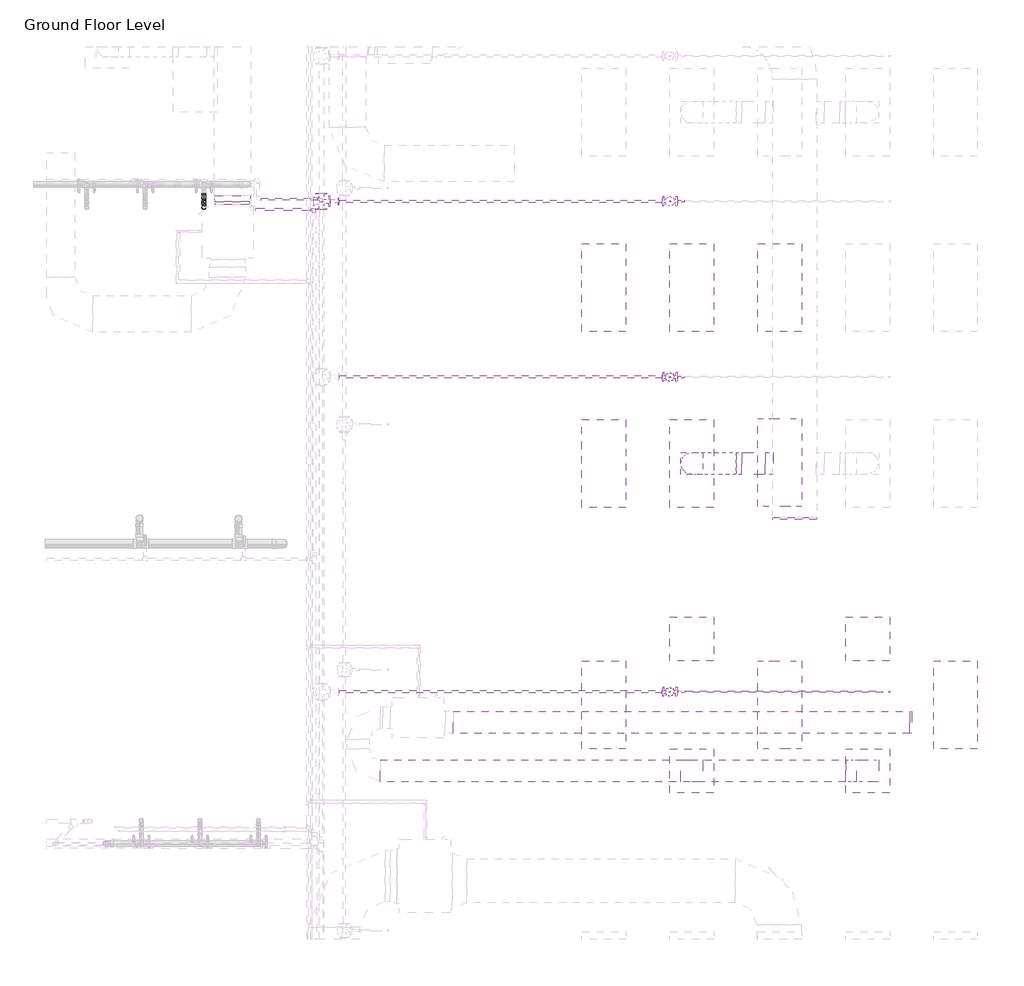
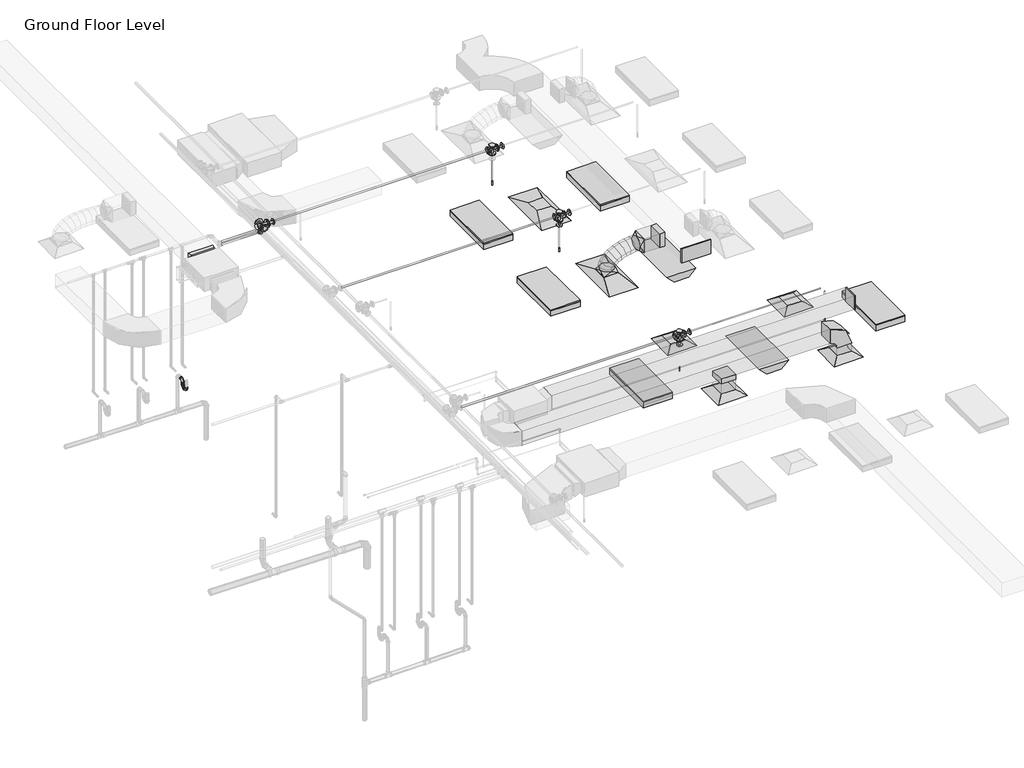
# One storey, part 22 of 74: 15 pipe fittings, 12 pipe segments, 8 duct fittings, 7 duct segments, 7 light fixtures, 6 air terminals, 4 fire suppression terminals.
"""IFC4 building model written with IfcOpenShell, lengths in millimetres."""

from ifc_helpers import new_model, si_unit, point, frame, frame_2d, origin, place, context, project, spatial, polyline, circle_curve, ellipse_curve, trimmed, segment, composite_curve, outline, extrude, transform, mapped, element, save
from ifc_brep_helpers import plane_surface, cylinder_surface, advanced_brep
from components import m_return_diffuser_1200x600_1200_x_600_face_300_x_300_d1983ef6, m_return_diffuser_600_x_600_face_300_x_300_connection_ff221211, m_rectangular_elbow_radius_1_w_618da153, m_rectangular_endcap_standard_0f0ff112, m_rectangular_endcap_standard_c319d4e7, m_rectangular_takeoff_standard_2be5eba1, m_rectangular_transition_angle_45_degree_c3bd3b2c, m_rectangular_to_round_transition_angle_45_degree_641efff0, m_sprinkler_dry_pendent_hosted_15_mm_dry_pendent_9bda8e11, m_emergency_recessed_lighting_fixture_600x1200_277_5b10b25d, m_troffer_light_parabolic_rectangular1_0600x1200mm_4_lamp_86473d4a, m_bend_pvc_sch_40_dwv_standard_1e7bdcc1, m_bend_pvc_sch_40_dwv_standard_776e50c4, m_reducer_flanged_cs_class_150_standard_ccf252ad, m_reducer_flanged_cs_class_150_standard_a7631c35, m_tee_round_base_flanged_cs_class_150_standard_dd767e04, m_tee_round_base_flanged_cs_class_150_standard_7e5987a1, standard_517a5a8d

model = new_model("IFC4")

# Units and contexts
model_context = context("Model", 3, world=origin())
ifc_project = project(units=[si_unit("LENGTHUNIT", "METRE", prefix="MILLI")], contexts=[model_context])

# Site, building, storey
site = spatial("IfcSite", under=ifc_project)
building = spatial("IfcBuilding", under=site)
storey = spatial("IfcBuildingStorey", under=building, Name="Ground Floor Level", Elevation=900.0)

# Air terminals
placement = place(None, origin())
m_return_diffuser_1200x600_1200_x_600_face_300_x_300_shape = m_return_diffuser_1200x600_1200_x_600_face_300_x_300_d1983ef6(model_context)
element("IfcAirTerminal", 1, ObjectType="M_Return Diffuser 1200x600 : 1200 x 600 Face 300 x 300 Connection", at=placement, inside=storey, context=model_context, shape_type="MappedRepresentation", body=[
    mapped(m_return_diffuser_1200x600_1200_x_600_face_300_x_300_shape, transform((10743.0482736, -25264.7846466, 3650.0), x_axis=(0.0, 1.0, 0.0), y_axis=(-1.0, 0.0, 0.0), z_axis=(0.0, 0.0, 1.0))),
])
m_return_diffuser_600_x_600_face_300_x_300_connection_shape = m_return_diffuser_600_x_600_face_300_x_300_connection_ff221211(model_context)
element("IfcAirTerminal", 2, ObjectType="M_Return Diffuser : 600 x 600 Face 300 x 300 Connection", at=placement, inside=storey, context=model_context, shape_type="MappedRepresentation", body=[
    mapped(m_return_diffuser_600_x_600_face_300_x_300_connection_shape, transform((10743.0482736, -31864.7846466, 3650.0), x_axis=(1.0, 0.0, 0.0), y_axis=(0.0, 1.0, 0.0), z_axis=(0.0, 0.0, 1.0))),
])
element("IfcAirTerminal", 3, ObjectType="M_Return Diffuser : 600 x 600 Face 300 x 300 Connection", at=placement, inside=storey, context=model_context, shape_type="MappedRepresentation", body=[
    mapped(m_return_diffuser_600_x_600_face_300_x_300_connection_shape, transform((13143.0482736, -31864.7846466, 3650.0), x_axis=(1.0, 0.0, 0.0), y_axis=(0.0, 1.0, 0.0), z_axis=(0.0, 0.0, 1.0))),
])
element("IfcAirTerminal", 4, ObjectType="M_Supply Diffuser 1200x600 : 1200 x 600 Face 300 x 300 Connection", at=placement, inside=storey, context=model_context, shape_type="MappedRepresentation", body=[
    mapped(m_return_diffuser_1200x600_1200_x_600_face_300_x_300_shape, transform((10743.0482736, -27664.7846466, 3650.0), x_axis=(0.0, 1.0, 0.0), y_axis=(-1.0, 0.0, 0.0), z_axis=(0.0, 0.0, 1.0))),
])
element("IfcAirTerminal", 5, ObjectType="M_Supply Diffuser : 600 x 600 Face 300 x 300 Connection", at=placement, inside=storey, context=model_context, shape_type="MappedRepresentation", body=[
    mapped(m_return_diffuser_600_x_600_face_300_x_300_connection_shape, transform((10743.0482736, -30064.7846466, 3650.0), x_axis=(1.0, 0.0, 0.0), y_axis=(0.0, 1.0, 0.0), z_axis=(0.0, 0.0, 1.0))),
])
element("IfcAirTerminal", 6, ObjectType="M_Supply Diffuser : 600 x 600 Face 300 x 300 Connection", at=placement, inside=storey, context=model_context, shape_type="MappedRepresentation", body=[
    mapped(m_return_diffuser_600_x_600_face_300_x_300_connection_shape, transform((13143.0482736, -30064.7846466, 3650.0), x_axis=(1.0, 0.0, 0.0), y_axis=(0.0, 1.0, 0.0), z_axis=(0.0, 0.0, 1.0))),
])

# Duct fittings
m_rectangular_elbow_radius_1_w_shape = m_rectangular_elbow_radius_1_w_618da153(model_context)
element("IfcDuctFitting", 7, ObjectType="M_Rectangular Elbow - Radius : 1 W", at=placement, inside=storey, context=model_context, shape_type="MappedRepresentation", body=[
    mapped(m_rectangular_elbow_radius_1_w_shape, transform((13143.0482736, -31864.7846466, 4221.2), x_axis=(0.0, 0.0, 1.0), y_axis=(-1.0, 0.0, 0.0), z_axis=(0.0, -1.0, 0.0))),
])
m_rectangular_endcap_standard_shape = m_rectangular_endcap_standard_0f0ff112(model_context)
element("IfcDuctFitting", 8, ObjectType="M_Rectangular Endcap : Standard", at=placement, inside=storey, context=model_context, shape_type="MappedRepresentation", body=[
    mapped(m_rectangular_endcap_standard_shape, transform((12147.7826463, -28403.2846466, 4150.0002153), x_axis=(0.0, -1.0, 0.0), y_axis=(1.0, 0.0, 0.0), z_axis=(0.0, 0.0, 1.0))),
])
m_rectangular_endcap_standard_2_shape = m_rectangular_endcap_standard_c319d4e7(model_context)
element("IfcDuctFitting", 9, ObjectType="M_Rectangular Endcap : Standard", at=placement, inside=storey, context=model_context, shape_type="MappedRepresentation", body=[
    mapped(m_rectangular_endcap_standard_2_shape, transform((13719.2644074, -31200.1877703, 4245.9), x_axis=(0.9999999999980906, 0.0, -1.954187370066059e-06), y_axis=(0.0, 1.0000000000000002, 0.0), z_axis=(1.954187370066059e-06, 0.0, 0.9999999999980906))),
])
m_rectangular_takeoff_standard_shape = m_rectangular_takeoff_standard_2be5eba1(model_context)
element("IfcDuctFitting", 10, ObjectType="M_Rectangular Takeoff : Standard", at=placement, inside=storey, context=model_context, shape_type="MappedRepresentation", body=[
    mapped(m_rectangular_takeoff_standard_shape, transform((11847.7826463, -27664.7846466, 4150.0), x_axis=(-1.0, 0.0, 0.0), y_axis=(0.0, 1.0, 0.0), z_axis=(0.0, 0.0, -1.0))),
])
element("IfcDuctFitting", 11, ObjectType="M_Rectangular Takeoff : Standard", at=placement, inside=storey, context=model_context, shape_type="MappedRepresentation", body=[
    mapped(m_rectangular_takeoff_standard_shape, transform((10743.0482736, -31864.7846466, 4071.2), x_axis=(0.0, 0.0, -1.0), y_axis=(-1.0, 0.0, 0.0), z_axis=(0.0, 1.0, 0.0))),
])
m_rectangular_transition_angle_45_degree_shape = m_rectangular_transition_angle_45_degree_c3bd3b2c(model_context)
element("IfcDuctFitting", 12, ObjectType="M_Rectangular Transition - Angle : 45 Degree", at=placement, inside=storey, context=model_context, shape_type="MappedRepresentation", body=[
    mapped(m_rectangular_transition_angle_45_degree_shape, transform((4469.1581832, -24003.4668801, 4057.1548873), x_axis=(0.0, -0.9999999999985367, 1.7107374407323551e-06), y_axis=(1.0, 0.0, 0.0), z_axis=(0.0, 1.7107374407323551e-06, 0.9999999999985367))),
])
m_rectangular_to_round_transition_angle_45_degree_shape = m_rectangular_to_round_transition_angle_45_degree_641efff0(model_context)
element("IfcDuctFitting", 13, ObjectType="M_Rectangular to Round Transition - Angle : 45 Degree", at=placement, inside=storey, context=model_context, shape_type="MappedRepresentation", body=[
    mapped(m_rectangular_to_round_transition_angle_45_degree_shape, transform((10743.0482736, -27664.7846466, 3751.6), x_axis=(0.0, 0.0, 1.0), y_axis=(-1.0, 0.0, 0.0), z_axis=(0.0, -1.0, 0.0))),
])
element("IfcDuctFitting", 14, ObjectType="M_Rectangular to Round Transition - Angle : 45 Degree", at=placement, inside=storey, context=model_context, shape_type="MappedRepresentation", body=[
    mapped(m_rectangular_to_round_transition_angle_45_degree_shape, transform((11424.4842049, -27664.7846466, 4150.0), x_axis=(-1.0, 0.0, 0.0), y_axis=(0.0, -1.0, 0.0), z_axis=(0.0, 0.0, 1.0))),
])

# Duct segments
element("IfcDuctSegment", 15, ObjectType="Flex - Round", at=placement, inside=storey, context=model_context, shape_type="AdvancedBrep", body=[
    advanced_brep(
    [(10893.0482736, -27664.7846466, 3826.6), (10743.0482736, -27814.7846466, 3826.6), (10593.0482736, -27664.7846466, 3826.6), (10743.0482736, -27514.7846466, 3826.6), (10893.0482736, -27664.7846466, 3832.4838104), (10743.0482736, -27814.7846466, 3857.3049615), (10593.0482736, -27664.7846466, 3882.1261126), (10743.0482736, -27514.7846466, 3857.3049615), (10895.1777586, -27664.7846466, 3838.7421096), (10759.7096782, -27814.7846466, 3906.2708192), (10624.2415979, -27664.7846466, 3973.7995287), (10759.7096782, -27514.7846466, 3906.2708192), (10917.1997864, -27664.7846466, 3871.1472855), (10805.5876959, -27814.7846466, 3973.7798261), (10693.9756053, -27664.7846466, 4076.4123668), (10805.5876959, -27514.7846466, 3973.7798261), (10957.142511, -27664.7846466, 3903.4915826), (10874.5230324, -27814.7846466, 4029.6013814), (10791.9035539, -27664.7846466, 4155.7111802), (10874.5230324, -27514.7846466, 4029.6013814), (11020.0646936, -27664.7846466, 3936.1928758), (10960.3563938, -27814.7846466, 4074.2098454), (10900.6480941, -27664.7846466, 4212.226815), (10960.3563938, -27514.7846466, 4074.2098454), (11098.9170855, -27664.7846466, 3963.8479616), (11056.9284859, -27814.7846466, 4108.0795788), (11014.9398863, -27664.7846466, 4252.311196), (11056.9284859, -27514.7846466, 4108.0795788), (11185.4890682, -27664.7846466, 3984.0509494), (11158.0800145, -27814.7846466, 4131.684942), (11130.6709609, -27664.7846466, 4279.3189347), (11158.0800145, -27514.7846466, 4131.684942), (11271.9732516, -27664.7846466, 3996.0504424), (11257.6516856, -27814.7846466, 4145.5002956), (11243.3301196, -27664.7846466, 4294.9501488), (11257.6516856, -27514.7846466, 4145.5002956), (11346.1345531, -27664.7846466, 4000.0), (11342.1431577, -27814.7846466, 4150.0), (11338.1517622, -27664.7846466, 4300.0), (11342.1431577, -27514.7846466, 4150.0), (11349.4842049, -27664.7846466, 4000.0), (11349.4842049, -27514.7846466, 4150.0), (11349.4842049, -27664.7846466, 4300.0), (11349.4842049, -27814.7846466, 4150.0)],
    [
        (0, 1, circle_curve(frame((10743.0482736, -27664.7846466, 3826.6), z_axis=(0.0, 0.0, -1.0), x_axis=(1.0, 0.0, 0.0)), 150.0)),
        (1, 2, circle_curve(frame((10743.0482736, -27664.7846466, 3826.6), z_axis=(0.0, 0.0, -1.0), x_axis=(1.0, 0.0, 0.0)), 150.0)),
        (2, 3, circle_curve(frame((10743.0482736, -27664.7846466, 3826.6), z_axis=(0.0, 0.0, -1.0), x_axis=(1.0, 0.0, 0.0)), 150.0)),
        (3, 0, circle_curve(frame((10743.0482736, -27664.7846466, 3826.6), z_axis=(0.0, 0.0, -1.0), x_axis=(1.0, 0.0, 0.0)), 150.0)),
        (0, 4),
        (4, 5, ellipse_curve(frame((10743.0482736, -27664.7846466, 3857.3049615), z_axis=(-0.1632543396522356, 0.0, -0.9865840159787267), x_axis=(0.9865840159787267, 0.0, -0.16325433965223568)), 152.039763, 150.0)),
        (5, 1),
        (5, 6, ellipse_curve(frame((10743.0482736, -27664.7846466, 3857.3049615), z_axis=(-0.1632543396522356, 0.0, -0.9865840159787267), x_axis=(0.9865840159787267, 0.0, -0.16325433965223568)), 152.039763, 150.0)),
        (6, 2),
        (6, 7, ellipse_curve(frame((10743.0482736, -27664.7846466, 3857.3049615), z_axis=(-0.1632543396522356, 0.0, -0.9865840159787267), x_axis=(0.9865840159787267, 0.0, -0.16325433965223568)), 152.039763, 150.0)),
        (7, 3),
        (7, 4, ellipse_curve(frame((10743.0482736, -27664.7846466, 3857.3049615), z_axis=(-0.1632543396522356, 0.0, -0.9865840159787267), x_axis=(0.9865840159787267, 0.0, -0.16325433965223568)), 152.039763, 150.0)),
        (4, 8),
        (8, 9, ellipse_curve(frame((10759.7096782, -27664.7846466, 3906.2708192), z_axis=(-0.4461280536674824, 0.0, -0.8949691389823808), x_axis=(0.8949691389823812, 0.0, -0.44612805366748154)), 151.366203, 150.0)),
        (9, 5),
        (9, 10, ellipse_curve(frame((10759.7096782, -27664.7846466, 3906.2708192), z_axis=(-0.4461280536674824, 0.0, -0.8949691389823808), x_axis=(0.8949691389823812, 0.0, -0.44612805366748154)), 151.366203, 150.0)),
        (10, 6),
        (10, 11, ellipse_curve(frame((10759.7096782, -27664.7846466, 3906.2708192), z_axis=(-0.4461280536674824, 0.0, -0.8949691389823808), x_axis=(0.8949691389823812, 0.0, -0.44612805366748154)), 151.366203, 150.0)),
        (11, 7),
        (11, 8, ellipse_curve(frame((10759.7096782, -27664.7846466, 3906.2708192), z_axis=(-0.4461280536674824, 0.0, -0.8949691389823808), x_axis=(0.8949691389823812, 0.0, -0.44612805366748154)), 151.366203, 150.0)),
        (8, 12),
        (12, 13, ellipse_curve(frame((10805.5876959, -27664.7846466, 3973.7798261), z_axis=(-0.6768758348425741, 0.0, -0.7360972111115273), x_axis=(0.7360972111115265, 0.0, -0.6768758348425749)), 151.6268352, 150.0)),
        (13, 9),
        (13, 14, ellipse_curve(frame((10805.5876959, -27664.7846466, 3973.7798261), z_axis=(-0.6768758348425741, 0.0, -0.7360972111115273), x_axis=(0.7360972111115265, 0.0, -0.6768758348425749)), 151.6268352, 150.0)),
        (14, 10),
        (14, 15, ellipse_curve(frame((10805.5876959, -27664.7846466, 3973.7798261), z_axis=(-0.6768758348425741, 0.0, -0.7360972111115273), x_axis=(0.7360972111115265, 0.0, -0.6768758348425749)), 151.6268352, 150.0)),
        (15, 11),
        (15, 12, ellipse_curve(frame((10805.5876959, -27664.7846466, 3973.7798261), z_axis=(-0.6768758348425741, 0.0, -0.7360972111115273), x_axis=(0.7360972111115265, 0.0, -0.6768758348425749)), 151.6268352, 150.0)),
        (12, 16),
        (16, 17, ellipse_curve(frame((10874.5230324, -27664.7846466, 4029.6013814), z_axis=(-0.8364738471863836, 0.0, -0.5480068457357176), x_axis=(0.5480068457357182, 0.0, -0.8364738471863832)), 150.7635884, 150.0)),
        (17, 13),
        (17, 18, ellipse_curve(frame((10874.5230324, -27664.7846466, 4029.6013814), z_axis=(-0.8364738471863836, 0.0, -0.5480068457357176), x_axis=(0.5480068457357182, 0.0, -0.8364738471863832)), 150.7635884, 150.0)),
        (18, 14),
        (18, 19, ellipse_curve(frame((10874.5230324, -27664.7846466, 4029.6013814), z_axis=(-0.8364738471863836, 0.0, -0.5480068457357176), x_axis=(0.5480068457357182, 0.0, -0.8364738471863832)), 150.7635884, 150.0)),
        (19, 15),
        (19, 16, ellipse_curve(frame((10874.5230324, -27664.7846466, 4029.6013814), z_axis=(-0.8364738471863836, 0.0, -0.5480068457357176), x_axis=(0.5480068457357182, 0.0, -0.8364738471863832)), 150.7635884, 150.0)),
        (16, 20),
        (20, 21, ellipse_curve(frame((10960.3563938, -27664.7846466, 4074.2098454), z_axis=(-0.9177957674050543, 0.0, -0.3970528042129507), x_axis=(0.3970528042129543, 0.0, -0.9177957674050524)), 150.3787384, 150.0)),
        (21, 17),
        (21, 22, ellipse_curve(frame((10960.3563938, -27664.7846466, 4074.2098454), z_axis=(-0.9177957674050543, 0.0, -0.3970528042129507), x_axis=(0.3970528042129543, 0.0, -0.9177957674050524)), 150.3787384, 150.0)),
        (22, 18),
        (22, 23, ellipse_curve(frame((10960.3563938, -27664.7846466, 4074.2098454), z_axis=(-0.9177957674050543, 0.0, -0.3970528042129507), x_axis=(0.3970528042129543, 0.0, -0.9177957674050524)), 150.3787384, 150.0)),
        (23, 19),
        (23, 20, ellipse_curve(frame((10960.3563938, -27664.7846466, 4074.2098454), z_axis=(-0.9177957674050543, 0.0, -0.3970528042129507), x_axis=(0.3970528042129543, 0.0, -0.9177957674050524)), 150.3787384, 150.0)),
        (20, 24),
        (24, 25, ellipse_curve(frame((11056.9284859, -27664.7846466, 4108.0795788), z_axis=(-0.9601411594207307, 0.0, -0.27951557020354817), x_axis=(0.2795155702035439, 0.0, -0.9601411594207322)), 150.2191795, 150.0)),
        (25, 21),
        (25, 26, ellipse_curve(frame((11056.9284859, -27664.7846466, 4108.0795788), z_axis=(-0.9601411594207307, 0.0, -0.27951557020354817), x_axis=(0.2795155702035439, 0.0, -0.9601411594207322)), 150.2191795, 150.0)),
        (26, 22),
        (26, 27, ellipse_curve(frame((11056.9284859, -27664.7846466, 4108.0795788), z_axis=(-0.9601411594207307, 0.0, -0.27951557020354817), x_axis=(0.2795155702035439, 0.0, -0.9601411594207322)), 150.2191795, 150.0)),
        (27, 23),
        (27, 24, ellipse_curve(frame((11056.9284859, -27664.7846466, 4108.0795788), z_axis=(-0.9601411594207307, 0.0, -0.27951557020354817), x_axis=(0.2795155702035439, 0.0, -0.9601411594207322)), 150.2191795, 150.0)),
        (24, 28),
        (28, 29, ellipse_curve(frame((11158.0800145, -27664.7846466, 4131.684942), z_axis=(-0.9831991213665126, 0.0, -0.1825362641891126), x_axis=(0.18253626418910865, 0.0, -0.9831991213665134)), 150.1567581, 150.0)),
        (29, 25),
        (29, 30, ellipse_curve(frame((11158.0800145, -27664.7846466, 4131.684942), z_axis=(-0.9831991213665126, 0.0, -0.1825362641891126), x_axis=(0.18253626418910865, 0.0, -0.9831991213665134)), 150.1567581, 150.0)),
        (30, 26),
        (30, 31, ellipse_curve(frame((11158.0800145, -27664.7846466, 4131.684942), z_axis=(-0.9831991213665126, 0.0, -0.1825362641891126), x_axis=(0.18253626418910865, 0.0, -0.9831991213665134)), 150.1567581, 150.0)),
        (31, 27),
        (31, 28, ellipse_curve(frame((11158.0800145, -27664.7846466, 4131.684942), z_axis=(-0.9831991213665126, 0.0, -0.1825362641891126), x_axis=(0.18253626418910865, 0.0, -0.9831991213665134)), 150.1567581, 150.0)),
        (28, 32),
        (32, 33, ellipse_curve(frame((11257.6516856, -27664.7846466, 4145.5002956), z_axis=(-0.9954398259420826, 0.0, -0.09539157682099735), x_axis=(0.09539157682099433, 0.0, -0.9954398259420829)), 150.1344926, 150.0)),
        (33, 29),
        (33, 34, ellipse_curve(frame((11257.6516856, -27664.7846466, 4145.5002956), z_axis=(-0.9954398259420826, 0.0, -0.09539157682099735), x_axis=(0.09539157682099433, 0.0, -0.9954398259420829)), 150.1344926, 150.0)),
        (34, 30),
        (34, 35, ellipse_curve(frame((11257.6516856, -27664.7846466, 4145.5002956), z_axis=(-0.9954398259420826, 0.0, -0.09539157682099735), x_axis=(0.09539157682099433, 0.0, -0.9954398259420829)), 150.1344926, 150.0)),
        (35, 31),
        (35, 32, ellipse_curve(frame((11257.6516856, -27664.7846466, 4145.5002956), z_axis=(-0.9954398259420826, 0.0, -0.09539157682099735), x_axis=(0.09539157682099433, 0.0, -0.9954398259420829)), 150.1344926, 150.0)),
        (32, 36),
        (36, 37, ellipse_curve(frame((11342.1431577, -27664.7846466, 4150.0), z_axis=(-0.9996461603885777, 0.0, -0.02659988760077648), x_axis=(0.026599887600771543, 0.0, -0.9996461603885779)), 150.0530947, 150.0)),
        (37, 33),
        (37, 38, ellipse_curve(frame((11342.1431577, -27664.7846466, 4150.0), z_axis=(-0.9996461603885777, 0.0, -0.02659988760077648), x_axis=(0.026599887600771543, 0.0, -0.9996461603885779)), 150.0530947, 150.0)),
        (38, 34),
        (38, 39, ellipse_curve(frame((11342.1431577, -27664.7846466, 4150.0), z_axis=(-0.9996461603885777, 0.0, -0.02659988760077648), x_axis=(0.026599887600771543, 0.0, -0.9996461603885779)), 150.0530947, 150.0)),
        (39, 35),
        (39, 36, ellipse_curve(frame((11342.1431577, -27664.7846466, 4150.0), z_axis=(-0.9996461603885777, 0.0, -0.02659988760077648), x_axis=(0.026599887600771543, 0.0, -0.9996461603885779)), 150.0530947, 150.0)),
        (40, 41, circle_curve(frame((11349.4842049, -27664.7846466, 4150.0), z_axis=(1.0, 0.0, 0.0), x_axis=(0.0, 0.0, -1.0)), 150.0)),
        (41, 42, circle_curve(frame((11349.4842049, -27664.7846466, 4150.0), z_axis=(1.0, 0.0, 0.0), x_axis=(0.0, 0.0, -1.0)), 150.0)),
        (42, 43, circle_curve(frame((11349.4842049, -27664.7846466, 4150.0), z_axis=(1.0, 0.0, 0.0), x_axis=(0.0, 0.0, -1.0)), 150.0)),
        (43, 40, circle_curve(frame((11349.4842049, -27664.7846466, 4150.0), z_axis=(1.0, 0.0, 0.0), x_axis=(0.0, 0.0, -1.0)), 150.0)),
        (36, 40),
        (43, 37),
        (42, 38),
        (41, 39),
    ],
    [
        plane_surface(frame((10743.0482736, -27814.7846466, 3826.6), z_axis=(0.0, 0.0, -1.0), x_axis=(1.0, 0.0, 0.0))),
        cylinder_surface(frame((10743.0482736, -27664.7846466, 3826.6), z_axis=(0.0, 0.0, -1.0), x_axis=(1.0, 0.0, 0.0)), 150.0),
        cylinder_surface(frame((10743.0482736, -27664.7846466, 3857.3049615), z_axis=(-0.32212824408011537, 0.0, -0.946696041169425), x_axis=(0.946696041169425, 0.0, -0.32212824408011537)), 150.0),
        cylinder_surface(frame((10759.7096782, -27664.7846466, 3906.2708192), z_axis=(-0.5620745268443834, 0.0, -0.827086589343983), x_axis=(0.827086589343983, 0.0, -0.5620745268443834)), 150.0),
        cylinder_surface(frame((10805.5876959, -27664.7846466, 3973.7798261), z_axis=(-0.7771524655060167, 0.0, -0.6293123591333), x_axis=(0.6293123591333, 0.0, -0.7771524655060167)), 150.0),
        cylinder_surface(frame((10874.5230324, -27664.7846466, 4029.6013814), z_axis=(-0.8873220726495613, 0.0, -0.4611502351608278), x_axis=(0.4611502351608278, 0.0, -0.8873220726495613)), 150.0),
        cylinder_surface(frame((10960.3563938, -27664.7846466, 4074.2098454), z_axis=(-0.9436464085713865, 0.0, -0.33095536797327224), x_axis=(0.33095536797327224, 0.0, -0.9436464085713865)), 150.0),
        cylinder_surface(frame((11056.9284859, -27664.7846466, 4108.0795788), z_axis=(-0.9738340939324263, 0.0, -0.22726010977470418), x_axis=(0.22726010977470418, 0.0, -0.9738340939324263)), 150.0),
        cylinder_surface(frame((11158.0800145, -27664.7846466, 4131.684942), z_axis=(-0.9905113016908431, 0.0, -0.13743129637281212), x_axis=(0.13743129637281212, 0.0, -0.9905113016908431)), 150.0),
        cylinder_surface(frame((11257.6516856, -27664.7846466, 4145.5002956), z_axis=(-0.9985848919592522, 0.0, -0.05318095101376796), x_axis=(0.05318095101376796, 0.0, -0.9985848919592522)), 150.0),
        plane_surface(frame((11349.4842049, -27664.7846466, 4000.0), z_axis=(1.0, 0.0, 0.0), x_axis=(0.0, 1.0, 0.0))),
        cylinder_surface(frame((11342.1431577, -27664.7846466, 4150.0), z_axis=(-1.0, 0.0, 0.0), x_axis=(0.0, 0.0, -1.0)), 150.0),
    ],
    [
        (0, [[1, 2, 3, 4]]),
        (1, [[-1, 5, 6, 7]]),
        (1, [[-2, -7, 8, 9]]),
        (1, [[-3, -9, 10, 11]]),
        (1, [[-4, -11, 12, -5]]),
        (2, [[-6, 13, 14, 15]]),
        (2, [[-8, -15, 16, 17]]),
        (2, [[-10, -17, 18, 19]]),
        (2, [[-12, -19, 20, -13]]),
        (3, [[-14, 21, 22, 23]]),
        (3, [[-16, -23, 24, 25]]),
        (3, [[-18, -25, 26, 27]]),
        (3, [[-20, -27, 28, -21]]),
        (4, [[-22, 29, 30, 31]]),
        (4, [[-24, -31, 32, 33]]),
        (4, [[-26, -33, 34, 35]]),
        (4, [[-28, -35, 36, -29]]),
        (5, [[-30, 37, 38, 39]]),
        (5, [[-32, -39, 40, 41]]),
        (5, [[-34, -41, 42, 43]]),
        (5, [[-36, -43, 44, -37]]),
        (6, [[-38, 45, 46, 47]]),
        (6, [[-40, -47, 48, 49]]),
        (6, [[-42, -49, 50, 51]]),
        (6, [[-44, -51, 52, -45]]),
        (7, [[-46, 53, 54, 55]]),
        (7, [[-48, -55, 56, 57]]),
        (7, [[-50, -57, 58, 59]]),
        (7, [[-52, -59, 60, -53]]),
        (8, [[-54, 61, 62, 63]]),
        (8, [[-56, -63, 64, 65]]),
        (8, [[-58, -65, 66, 67]]),
        (8, [[-60, -67, 68, -61]]),
        (9, [[-62, 69, 70, 71]]),
        (9, [[-64, -71, 72, 73]]),
        (9, [[-66, -73, 74, 75]]),
        (9, [[-68, -75, 76, -69]]),
        (10, [[77, 78, 79, 80]]),
        (11, [[-70, 81, -80, 82]]),
        (11, [[-72, -82, -79, 83]]),
        (11, [[-74, -83, -78, 84]]),
        (11, [[-76, -84, -77, -81]]),
    ],
),
])
element("IfcDuctSegment", 16, ObjectType="Radius Elbows / Taps", at=placement, inside=storey, context=model_context, shape_type="SweptSolid", body=[
    extrude(outline(polyline([(11746.1826463, -27514.7846466), (11746.1826463, -27814.7846466), (11424.4842049, -27814.7846466), (11424.4842049, -27514.7846466), (11746.1826463, -27514.7846466)])), frame((0.0, 0.0, 4000.0), z_axis=(0.0, 0.0, 1.0), x_axis=(1.0, 0.0, 0.0)), (0.0, 0.0, 1.0), 300.0),
])
element("IfcDuctSegment", 17, ObjectType="Radius Elbows / Taps", at=placement, inside=storey, context=model_context, shape_type="SweptSolid", body=[
    extrude(outline(polyline([(0.0, -300.0), (0.0, 0.0), (6236.5207712, 0.0), (6236.5207712, -300.0), (0.0, -300.0)])), frame((7482.7433356, -31050.1877703, 4095.9125), z_axis=(2.004322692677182e-06, 0.0, 0.9999999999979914), x_axis=(0.9999999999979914, 0.0, -2.004322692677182e-06)), (0.0, 0.0, 1.0), 300.0),
])
element("IfcDuctSegment", 18, ObjectType="Radius Elbows / Taps", at=placement, inside=storey, context=model_context, shape_type="SweptSolid", body=[
    extrude(outline(polyline([(6488.4644074, -32014.7846466), (6488.4644074, -31714.7846466), (12843.0482736, -31714.7846466), (12843.0482736, -32014.7846466), (6488.4644074, -32014.7846466)])), frame((0.0, 0.0, 4071.2), z_axis=(0.0, 0.0, 1.0), x_axis=(1.0, 0.0, 0.0)), (0.0, 0.0, 1.0), 300.0),
])
element("IfcDuctSegment", 19, ObjectType="Radius Elbows / Taps", at=placement, inside=storey, context=model_context, shape_type="SweptSolid", body=[
    extrude(outline(polyline([(12993.0482736, -32014.7846466), (12993.0482736, -31714.7846466), (13293.0482736, -31714.7846466), (13293.0482736, -32014.7846466), (12993.0482736, -32014.7846466)])), frame((0.0, 0.0, 3751.6), z_axis=(0.0, 0.0, 1.0), x_axis=(1.0, 0.0, 0.0)), (0.0, 0.0, 1.0), 169.6),
])
element("IfcDuctSegment", 20, ObjectType="Radius Elbows / Taps", at=placement, inside=storey, context=model_context, shape_type="SweptSolid", body=[
    extrude(outline(polyline([(10893.0482736, -32014.7846466), (10593.0482736, -32014.7846466), (10593.0482736, -31714.7846466), (10893.0482736, -31714.7846466), (10893.0482736, -32014.7846466)])), frame((0.0, 0.0, 3751.6), z_axis=(0.0, 0.0, 1.0), x_axis=(1.0, 0.0, 0.0)), (0.0, 0.0, 1.0), 218.0),
])
element("IfcDuctSegment", 21, ObjectType="Radius Elbows / Taps", at=placement, inside=storey, context=model_context, shape_type="SweptSolid", body=[
    extrude(outline(polyline([(4700.0956832, -24131.8627051), (4238.2206832, -24131.8627051), (4238.2206832, -24089.1912487), (4700.0956832, -24089.1912487), (4700.0956832, -24131.8627051)])), frame((0.0, 0.0, 3992.8804453), z_axis=(0.0, 0.0, 1.0), x_axis=(1.0, 0.0, 0.0)), (0.0, 0.0, 1.0), 214.275),
])

# Fire suppression terminals
m_sprinkler_dry_pendent_hosted_15_mm_dry_pendent_shape = m_sprinkler_dry_pendent_hosted_15_mm_dry_pendent_9bda8e11(model_context)
element("IfcFireSuppressionTerminal", 22, ObjectType="M_Sprinkler - Dry - Pendent - Hosted : 15 mm Dry Pendent", at=placement, inside=storey, context=model_context, shape_type="MappedRepresentation", body=[
    mapped(m_sprinkler_dry_pendent_hosted_15_mm_dry_pendent_shape, transform((10443.0482736, -24083.6779349, 3650.0), x_axis=(1.0, 0.0, 0.0), y_axis=(0.0, -1.0, 0.0), z_axis=(0.0, 0.0, -1.0))),
])
element("IfcFireSuppressionTerminal", 23, ObjectType="M_Sprinkler - Dry - Pendent - Hosted : 15 mm Dry Pendent", at=placement, inside=storey, context=model_context, shape_type="MappedRepresentation", body=[
    mapped(m_sprinkler_dry_pendent_hosted_15_mm_dry_pendent_shape, transform((10443.0482736, -26484.6295433, 3650.0), x_axis=(1.0, 0.0, 0.0), y_axis=(0.0, -1.0, 0.0), z_axis=(0.0, 0.0, -1.0))),
])
element("IfcFireSuppressionTerminal", 24, ObjectType="M_Sprinkler - Dry - Pendent - Hosted : 15 mm Dry Pendent", at=placement, inside=storey, context=model_context, shape_type="MappedRepresentation", body=[
    mapped(m_sprinkler_dry_pendent_hosted_15_mm_dry_pendent_shape, transform((10443.0482736, -30785.1783804, 3650.0), x_axis=(1.0, 0.0, 0.0), y_axis=(0.0, -1.0, 0.0), z_axis=(0.0, 0.0, -1.0))),
])
element("IfcFireSuppressionTerminal", 25, ObjectType="M_Sprinkler - Dry - Pendent - Hosted : 15 mm Dry Pendent", at=placement, inside=storey, context=model_context, shape_type="MappedRepresentation", body=[
    mapped(m_sprinkler_dry_pendent_hosted_15_mm_dry_pendent_shape, transform((13443.0482736, -30785.1783804, 3650.0), x_axis=(1.0, 0.0, 0.0), y_axis=(0.0, -1.0, 0.0), z_axis=(0.0, 0.0, -1.0))),
])

# Light fixtures
m_emergency_recessed_lighting_fixture_600x1200_277_shape = m_emergency_recessed_lighting_fixture_600x1200_277_5b10b25d(model_context)
element("IfcLightFixture", 26, ObjectType="M_Emergency Recessed Lighting Fixture : 600x1200 - 277", at=placement, inside=storey, context=model_context, shape_type="MappedRepresentation", body=[
    mapped(m_emergency_recessed_lighting_fixture_600x1200_277_shape, transform((11643.0482736, -28254.7846466, 3650.0), x_axis=(0.0, 1.0, 0.0), y_axis=(-1.0, 0.0, 0.0), z_axis=(0.0, 0.0, 1.0))),
])
element("IfcLightFixture", 27, ObjectType="M_Emergency Recessed Lighting Fixture : 600x1200 - 277", at=placement, inside=storey, context=model_context, shape_type="MappedRepresentation", body=[
    mapped(m_emergency_recessed_lighting_fixture_600x1200_277_shape, transform((11643.0482736, -31564.7846466, 3650.0), x_axis=(0.0, 1.0, 0.0), y_axis=(-1.0, 0.0, 0.0), z_axis=(0.0, 0.0, 1.0))),
])
m_troffer_light_parabolic_rectangular1_0600x1200mm_4_lamp_shape = m_troffer_light_parabolic_rectangular1_0600x1200mm_4_lamp_86473d4a(model_context)
element("IfcLightFixture", 28, ObjectType="M_Troffer Light - Parabolic Rectangular1 : 0600x1200mm(4 Lamp) - 277V 2", at=placement, inside=storey, context=model_context, shape_type="MappedRepresentation", body=[
    mapped(m_troffer_light_parabolic_rectangular1_0600x1200mm_4_lamp_shape, transform((9483.5823415, -25246.081145, 3650.0), x_axis=(0.0, 1.0, 0.0), y_axis=(-1.0, 0.0, 0.0), z_axis=(0.0, 0.0, 1.0))),
])
element("IfcLightFixture", 29, ObjectType="M_Troffer Light - Parabolic Rectangular1 : 0600x1200mm(4 Lamp) - 277V 2", at=placement, inside=storey, context=model_context, shape_type="MappedRepresentation", body=[
    mapped(m_troffer_light_parabolic_rectangular1_0600x1200mm_4_lamp_shape, transform((11883.5823415, -25246.081145, 3650.0), x_axis=(0.0, 1.0, 0.0), y_axis=(-1.0, 0.0, 0.0), z_axis=(0.0, 0.0, 1.0))),
])
element("IfcLightFixture", 30, ObjectType="M_Troffer Light - Parabolic Rectangular1 : 0600x1200mm(4 Lamp) - 277V 2", at=placement, inside=storey, context=model_context, shape_type="MappedRepresentation", body=[
    mapped(m_troffer_light_parabolic_rectangular1_0600x1200mm_4_lamp_shape, transform((9483.5823415, -27646.081145, 3650.0), x_axis=(0.0, 1.0, 0.0), y_axis=(-1.0, 0.0, 0.0), z_axis=(0.0, 0.0, 1.0))),
])
element("IfcLightFixture", 31, ObjectType="M_Troffer Light - Parabolic Rectangular1 : 0600x1200mm(4 Lamp) - 277V 2", at=placement, inside=storey, context=model_context, shape_type="MappedRepresentation", body=[
    mapped(m_troffer_light_parabolic_rectangular1_0600x1200mm_4_lamp_shape, transform((9483.5823415, -30946.081145, 3650.0), x_axis=(0.0, 1.0, 0.0), y_axis=(-1.0, 0.0, 0.0), z_axis=(0.0, 0.0, 1.0))),
])
element("IfcLightFixture", 32, ObjectType="M_Troffer Light - Parabolic Rectangular1 : 0600x1200mm(4 Lamp) - 277V 2", at=placement, inside=storey, context=model_context, shape_type="MappedRepresentation", body=[
    mapped(m_troffer_light_parabolic_rectangular1_0600x1200mm_4_lamp_shape, transform((14283.5823415, -30946.081145, 3650.0), x_axis=(0.0, 1.0, 0.0), y_axis=(-1.0, 0.0, 0.0), z_axis=(0.0, 0.0, 1.0))),
])

# Pipe fittings
m_bend_pvc_sch_40_dwv_standard_shape = m_bend_pvc_sch_40_dwv_standard_1e7bdcc1(model_context)
element("IfcPipeFitting", 33, ObjectType="M_Bend - PVC - Sch 40 - DWV : Standard", at=placement, inside=storey, context=model_context, shape_type="MappedRepresentation", body=[
    mapped(m_bend_pvc_sch_40_dwv_standard_shape, transform((4079.14976, -24168.3528577, 1360.00001), x_axis=(0.0, -0.9999500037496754, 0.009999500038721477), y_axis=(0.0, 0.009999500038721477, 0.9999500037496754), z_axis=(-1.0, 0.0, 0.0))),
])
m_bend_pvc_sch_40_dwv_standard_2_shape = m_bend_pvc_sch_40_dwv_standard_776e50c4(model_context)
element("IfcPipeFitting", 34, ObjectType="M_Bend - PVC - Sch 40 - DWV : Standard", at=placement, inside=storey, context=model_context, shape_type="MappedRepresentation", body=[
    mapped(m_bend_pvc_sch_40_dwv_standard_2_shape, transform((4079.14976, -24038.3518579, 1358.7), x_axis=(0.0, 0.9999500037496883, -0.009999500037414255), y_axis=(0.0, 0.009999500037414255, 0.9999500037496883), z_axis=(1.0, 0.0, 0.0))),
])
element("IfcPipeFitting", 35, ObjectType="M_Bend - PVC - Sch 40 - DWV : Standard", at=placement, inside=storey, context=model_context, shape_type="MappedRepresentation", body=[
    mapped(m_bend_pvc_sch_40_dwv_standard_2_shape, transform((4079.14976, -24038.3518579, 1510.09999), x_axis=(0.0, 0.0, 1.0), y_axis=(0.0, 1.0, 0.0), z_axis=(-1.0, 0.0, 0.0))),
])
m_reducer_flanged_cs_class_150_standard_shape = m_reducer_flanged_cs_class_150_standard_ccf252ad(model_context)
element("IfcPipeFitting", 36, ObjectType="M_Reducer - Flanged - CS - Class 150 : Standard", at=placement, inside=storey, context=model_context, shape_type="MappedRepresentation", body=[
    mapped(m_reducer_flanged_cs_class_150_standard_shape, transform((10543.7568674, -30785.1783804, 4347.5), x_axis=(1.0, 0.0, 0.0), y_axis=(0.0, 0.0, 1.0), z_axis=(0.0, -1.0, 0.0))),
])
element("IfcPipeFitting", 37, ObjectType="M_Reducer - Flanged - CS - Class 150 : Standard", at=placement, inside=storey, context=model_context, shape_type="MappedRepresentation", body=[
    mapped(m_reducer_flanged_cs_class_150_standard_shape, transform((10443.0482736, -30785.1783804, 4246.7914063), x_axis=(0.0, 0.0, -1.0), y_axis=(-1.0, 0.0, 0.0), z_axis=(0.0, 1.0, 0.0))),
])
element("IfcPipeFitting", 38, ObjectType="M_Reducer - Flanged - CS - Class 150 : Standard", at=placement, inside=storey, context=model_context, shape_type="MappedRepresentation", body=[
    mapped(m_reducer_flanged_cs_class_150_standard_shape, transform((10543.7568674, -26484.6295433, 4347.5), x_axis=(1.0, 0.0, 0.0), y_axis=(0.0, 0.0, 1.0), z_axis=(0.0, -1.0, 0.0))),
])
element("IfcPipeFitting", 39, ObjectType="M_Reducer - Flanged - CS - Class 150 : Standard", at=placement, inside=storey, context=model_context, shape_type="MappedRepresentation", body=[
    mapped(m_reducer_flanged_cs_class_150_standard_shape, transform((10443.0482736, -26484.6295433, 4246.7914063), x_axis=(0.0, 0.0, -1.0), y_axis=(-1.0, 0.0, 0.0), z_axis=(0.0, 1.0, 0.0))),
])
element("IfcPipeFitting", 40, ObjectType="M_Reducer - Flanged - CS - Class 150 : Standard", at=placement, inside=storey, context=model_context, shape_type="MappedRepresentation", body=[
    mapped(m_reducer_flanged_cs_class_150_standard_shape, transform((10543.7568674, -24083.6779349, 4347.5), x_axis=(1.0, 0.0, 0.0), y_axis=(0.0, 0.0, 1.0), z_axis=(0.0, -1.0, 0.0))),
])
m_reducer_flanged_cs_class_150_standard_2_shape = m_reducer_flanged_cs_class_150_standard_a7631c35(model_context)
element("IfcPipeFitting", 41, ObjectType="M_Reducer - Flanged - CS - Class 150 : Standard", at=placement, inside=storey, context=model_context, shape_type="MappedRepresentation", body=[
    mapped(m_reducer_flanged_cs_class_150_standard_2_shape, transform((5798.6174894, -24083.6779349, 4347.5), x_axis=(1.0, 0.0, 0.0), y_axis=(0.0, 0.0, 1.0), z_axis=(0.0, -1.0, 0.0))),
])
m_tee_round_base_flanged_cs_class_150_standard_shape = m_tee_round_base_flanged_cs_class_150_standard_dd767e04(model_context)
element("IfcPipeFitting", 42, ObjectType="M_Tee Round Base - Flanged - CS - Class 150 : Standard", at=placement, inside=storey, context=model_context, shape_type="MappedRepresentation", body=[
    mapped(m_tee_round_base_flanged_cs_class_150_standard_shape, transform((5684.6174894, -24083.6779349, 4347.5), x_axis=(0.0, -1.0, 0.0), y_axis=(-1.0, 0.0, 0.0), z_axis=(0.0, 0.0, -1.0))),
])
m_tee_round_base_flanged_cs_class_150_standard_2_shape = m_tee_round_base_flanged_cs_class_150_standard_7e5987a1(model_context)
element("IfcPipeFitting", 43, ObjectType="M_Tee Round Base - Flanged - CS - Class 150 : Standard", at=placement, inside=storey, context=model_context, shape_type="MappedRepresentation", body=[
    mapped(m_tee_round_base_flanged_cs_class_150_standard_2_shape, transform((10443.0482736, -30785.1783804, 4347.5), x_axis=(1.0, 0.0, 0.0), y_axis=(0.0, 0.0, 1.0), z_axis=(0.0, -1.0, 0.0))),
])
element("IfcPipeFitting", 44, ObjectType="M_Tee Round Base - Flanged - CS - Class 150 : Standard", at=placement, inside=storey, context=model_context, shape_type="MappedRepresentation", body=[
    mapped(m_tee_round_base_flanged_cs_class_150_standard_2_shape, transform((10443.0482736, -26484.6295433, 4347.5), x_axis=(1.0, 0.0, 0.0), y_axis=(0.0, 0.0, 1.0), z_axis=(0.0, -1.0, 0.0))),
])
element("IfcPipeFitting", 45, ObjectType="M_Tee Round Base - Flanged - CS - Class 150 : Standard", at=placement, inside=storey, context=model_context, shape_type="MappedRepresentation", body=[
    mapped(m_tee_round_base_flanged_cs_class_150_standard_2_shape, transform((10443.0482736, -24083.6779349, 4347.5), x_axis=(1.0, 0.0, 0.0), y_axis=(0.0, 0.0, 1.0), z_axis=(0.0, -1.0, 0.0))),
])
standard_shape = standard_517a5a8d(model_context)
element("IfcPipeFitting", 46, ObjectType="M_Elbow - CPVC - Sch 40 : Standard", at=placement, inside=storey, context=model_context, shape_type="MappedRepresentation", body=[
    mapped(standard_shape, transform((5589.646628, -24195.7825432, 4300.0), x_axis=(0.0, 1.0, 0.0), y_axis=(-1.0, 0.0, 0.0), z_axis=(0.0, 0.0, 1.0))),
])
element("IfcPipeFitting", 47, ObjectType="M_Elbow - CPVC - Sch 40 : Standard", at=placement, inside=storey, context=model_context, shape_type="MappedRepresentation", body=[
    mapped(standard_shape, transform((5680.5575802, -24054.921633, 4250.0), x_axis=(0.0, 1.0, 0.0), y_axis=(-1.0, 0.0, 0.0), z_axis=(0.0, 0.0, 1.0))),
])

# Pipe segments
element("IfcPipeSegment", 48, ObjectType="CPVC", at=placement, inside=storey, context=model_context, shape_type="SweptSolid", body=[
    extrude(outline(composite_curve([segment(trimmed(circle_curve(frame_2d((-24195.7825432, 4300.0)), 16.7005), [point((-24212.4830432, 4300.0))], [point((-24195.7825432, 4316.7005))], False, "CARTESIAN"), True, "CONTINUOUS"), segment(trimmed(circle_curve(frame_2d((-24195.7825432, 4300.0)), 16.7005), [point((-24195.7825432, 4316.7005))], [point((-24179.0820432, 4300.0))], False, "CARTESIAN"), True, "CONTINUOUS"), segment(trimmed(circle_curve(frame_2d((-24195.7825432, 4300.0)), 16.7005), [point((-24179.0820432, 4300.0))], [point((-24195.7825432, 4283.2995))], False, "CARTESIAN"), True, "CONTINUOUS"), segment(trimmed(circle_curve(frame_2d((-24195.7825432, 4300.0)), 16.7005), [point((-24195.7825432, 4283.2995))], [point((-24212.4830432, 4300.0))], False, "CARTESIAN"), True, "CONTINUOUS")], self_intersect=False)), frame((4786.3272706, 0.0, 0.0), z_axis=(1.0, 0.0, 0.0), x_axis=(0.0, 1.0, 0.0)), (0.0, 0.0, 1.0), 760.0568074),
])
element("IfcPipeSegment", 49, ObjectType="CPVC", at=placement, inside=storey, context=model_context, shape_type="SweptSolid", body=[
    extrude(outline(composite_curve([segment(trimmed(circle_curve(frame_2d((-24054.921633, 4250.0)), 16.7005), [point((-24038.221133, 4250.0))], [point((-24054.921633, 4233.2995))], False, "CARTESIAN"), True, "CONTINUOUS"), segment(trimmed(circle_curve(frame_2d((-24054.921633, 4250.0)), 16.7005), [point((-24054.921633, 4233.2995))], [point((-24071.622133, 4250.0))], False, "CARTESIAN"), True, "CONTINUOUS"), segment(trimmed(circle_curve(frame_2d((-24054.921633, 4250.0)), 16.7005), [point((-24071.622133, 4250.0))], [point((-24054.921633, 4266.7005))], False, "CARTESIAN"), True, "CONTINUOUS"), segment(trimmed(circle_curve(frame_2d((-24054.921633, 4250.0)), 16.7005), [point((-24054.921633, 4266.7005))], [point((-24038.221133, 4250.0))], False, "CARTESIAN"), True, "CONTINUOUS")], self_intersect=False)), frame((4863.8201302, 0.0, 0.0), z_axis=(1.0, 0.0, 0.0), x_axis=(0.0, 1.0, 0.0)), (0.0, 0.0, 1.0), 773.4749),
])
element("IfcPipeSegment", 50, ObjectType="PVC - DWV", at=placement, inside=storey, context=model_context, shape_type="SweptSolid", body=[
    extrude(outline(composite_curve([segment(trimmed(circle_curve(frame_2d((0.0, -24.1299999)), 24.13), [point((24.13, -24.1299999))], [point((0.0, -48.2599999))], False, "CARTESIAN"), True, "CONTINUOUS"), segment(trimmed(circle_curve(frame_2d((0.0, -24.1299999)), 24.13), [point((0.0, -48.2599999))], [point((-24.13, -24.1299999))], False, "CARTESIAN"), True, "CONTINUOUS"), segment(trimmed(circle_curve(frame_2d((0.0, -24.1299999)), 24.13), [point((-24.13, -24.1299999))], [point((0.0, 0.0))], False, "CARTESIAN"), True, "CONTINUOUS"), segment(trimmed(circle_curve(frame_2d((0.0, -24.1299999)), 24.13), [point((0.0, 0.0))], [point((24.13, -24.1299999))], False, "CARTESIAN"), True, "CONTINUOUS")], self_intersect=False)), frame((4079.14976, -24100.0072752, 1383.4477606), z_axis=(0.0, -0.9999500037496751, 0.009999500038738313), x_axis=(1.0, 0.0, 0.0)), (0.0, 0.0, 1.0), 6.2078997),
])
element("IfcPipeSegment", 51, ObjectType="PVC - DWV", at=placement, inside=storey, context=model_context, shape_type="SweptSolid", body=[
    extrude(outline(composite_curve([segment(trimmed(circle_curve(frame_2d((4079.14976, -24038.3518579)), 24.13), [point((4055.01976, -24038.3518579))], [point((4079.14976, -24014.2218579))], False, "CARTESIAN"), True, "CONTINUOUS"), segment(trimmed(circle_curve(frame_2d((4079.14976, -24038.3518579)), 24.13), [point((4079.14976, -24014.2218579))], [point((4103.27976, -24038.3518579))], False, "CARTESIAN"), True, "CONTINUOUS"), segment(trimmed(circle_curve(frame_2d((4079.14976, -24038.3518579)), 24.13), [point((4103.27976, -24038.3518579))], [point((4079.14976, -24062.4818579))], False, "CARTESIAN"), True, "CONTINUOUS"), segment(trimmed(circle_curve(frame_2d((4079.14976, -24038.3518579)), 24.13), [point((4079.14976, -24062.4818579))], [point((4055.01976, -24038.3518579))], False, "CARTESIAN"), True, "CONTINUOUS")], self_intersect=False)), frame((0.0, 0.0, 1420.5998), z_axis=(0.0, 0.0, 1.0), x_axis=(1.0, 0.0, 0.0)), (0.0, 0.0, 1.0), 27.60039),
])
element("IfcPipeSegment", 52, ObjectType="Steel flanged", at=placement, inside=storey, context=model_context, shape_type="SweptSolid", body=[
    extrude(outline(composite_curve([segment(trimmed(circle_curve(frame_2d((13443.0482736, -30785.1783804)), 10.668), [point((13432.3802736, -30785.1783804))], [point((13443.0482736, -30774.5103804))], False, "CARTESIAN"), True, "CONTINUOUS"), segment(trimmed(circle_curve(frame_2d((13443.0482736, -30785.1783804)), 10.668), [point((13443.0482736, -30774.5103804))], [point((13453.7162736, -30785.1783804))], False, "CARTESIAN"), True, "CONTINUOUS"), segment(trimmed(circle_curve(frame_2d((13443.0482736, -30785.1783804)), 10.668), [point((13453.7162736, -30785.1783804))], [point((13443.0482736, -30795.8463804))], False, "CARTESIAN"), True, "CONTINUOUS"), segment(trimmed(circle_curve(frame_2d((13443.0482736, -30785.1783804)), 10.668), [point((13443.0482736, -30795.8463804))], [point((13432.3802736, -30785.1783804))], False, "CARTESIAN"), True, "CONTINUOUS")], self_intersect=False)), frame((0.0, 0.0, 3650.0), z_axis=(0.0, 0.0, 1.0), x_axis=(1.0, 0.0, 0.0)), (0.0, 0.0, 1.0), 604.4914062),
])
element("IfcPipeSegment", 53, ObjectType="Steel flanged", at=placement, inside=storey, context=model_context, shape_type="SweptSolid", body=[
    extrude(outline(composite_curve([segment(trimmed(circle_curve(frame_2d((10443.0482736, -30785.1783804)), 10.668), [point((10432.3802736, -30785.1783804))], [point((10443.0482736, -30774.5103804))], False, "CARTESIAN"), True, "CONTINUOUS"), segment(trimmed(circle_curve(frame_2d((10443.0482736, -30785.1783804)), 10.668), [point((10443.0482736, -30774.5103804))], [point((10453.7162736, -30785.1783804))], False, "CARTESIAN"), True, "CONTINUOUS"), segment(trimmed(circle_curve(frame_2d((10443.0482736, -30785.1783804)), 10.668), [point((10453.7162736, -30785.1783804))], [point((10443.0482736, -30795.8463804))], False, "CARTESIAN"), True, "CONTINUOUS"), segment(trimmed(circle_curve(frame_2d((10443.0482736, -30785.1783804)), 10.668), [point((10443.0482736, -30795.8463804))], [point((10432.3802736, -30785.1783804))], False, "CARTESIAN"), True, "CONTINUOUS")], self_intersect=False)), frame((0.0, 0.0, 3650.0), z_axis=(0.0, 0.0, 1.0), x_axis=(1.0, 0.0, 0.0)), (0.0, 0.0, 1.0), 482.7914062),
])
element("IfcPipeSegment", 54, ObjectType="Steel flanged", at=placement, inside=storey, context=model_context, shape_type="SweptSolid", body=[
    extrude(outline(composite_curve([segment(trimmed(circle_curve(frame_2d((-30785.1783804, 4347.5)), 16.7005), [point((-30768.4778804, 4347.5))], [point((-30785.1783804, 4330.7995))], False, "CARTESIAN"), True, "CONTINUOUS"), segment(trimmed(circle_curve(frame_2d((-30785.1783804, 4347.5)), 16.7005), [point((-30785.1783804, 4330.7995))], [point((-30801.8788804, 4347.5))], False, "CARTESIAN"), True, "CONTINUOUS"), segment(trimmed(circle_curve(frame_2d((-30785.1783804, 4347.5)), 16.7005), [point((-30801.8788804, 4347.5))], [point((-30785.1783804, 4364.2005))], False, "CARTESIAN"), True, "CONTINUOUS"), segment(trimmed(circle_curve(frame_2d((-30785.1783804, 4347.5)), 16.7005), [point((-30785.1783804, 4364.2005))], [point((-30768.4778804, 4347.5))], False, "CARTESIAN"), True, "CONTINUOUS")], self_intersect=False)), frame((5925.6174894, 0.0, 0.0), z_axis=(1.0, 0.0, 0.0), x_axis=(0.0, 1.0, 0.0)), (0.0, 0.0, 1.0), 4416.7221905),
])
element("IfcPipeSegment", 55, ObjectType="Steel flanged", at=placement, inside=storey, context=model_context, shape_type="SweptSolid", body=[
    extrude(outline(composite_curve([segment(trimmed(circle_curve(frame_2d((-30785.1783804, 4347.5)), 10.668), [point((-30774.5103804, 4347.5))], [point((-30785.1783804, 4336.832))], False, "CARTESIAN"), True, "CONTINUOUS"), segment(trimmed(circle_curve(frame_2d((-30785.1783804, 4347.5)), 10.668), [point((-30785.1783804, 4336.832))], [point((-30795.8463804, 4347.5))], False, "CARTESIAN"), True, "CONTINUOUS"), segment(trimmed(circle_curve(frame_2d((-30785.1783804, 4347.5)), 10.668), [point((-30795.8463804, 4347.5))], [point((-30785.1783804, 4358.168))], False, "CARTESIAN"), True, "CONTINUOUS"), segment(trimmed(circle_curve(frame_2d((-30785.1783804, 4347.5)), 10.668), [point((-30785.1783804, 4358.168))], [point((-30774.5103804, 4347.5))], False, "CARTESIAN"), True, "CONTINUOUS")], self_intersect=False)), frame((10657.7568674, 0.0, 0.0), z_axis=(1.0, 0.0, 0.0), x_axis=(0.0, 1.0, 0.0)), (0.0, 0.0, 1.0), 2692.2828125),
])
element("IfcPipeSegment", 56, ObjectType="Steel flanged", at=placement, inside=storey, context=model_context, shape_type="SweptSolid", body=[
    extrude(outline(composite_curve([segment(trimmed(circle_curve(frame_2d((10443.0482736, -26484.6295433)), 10.668), [point((10432.3802736, -26484.6295433))], [point((10443.0482736, -26473.9615433))], False, "CARTESIAN"), True, "CONTINUOUS"), segment(trimmed(circle_curve(frame_2d((10443.0482736, -26484.6295433)), 10.668), [point((10443.0482736, -26473.9615433))], [point((10453.7162736, -26484.6295433))], False, "CARTESIAN"), True, "CONTINUOUS"), segment(trimmed(circle_curve(frame_2d((10443.0482736, -26484.6295433)), 10.668), [point((10453.7162736, -26484.6295433))], [point((10443.0482736, -26495.2975433))], False, "CARTESIAN"), True, "CONTINUOUS"), segment(trimmed(circle_curve(frame_2d((10443.0482736, -26484.6295433)), 10.668), [point((10443.0482736, -26495.2975433))], [point((10432.3802736, -26484.6295433))], False, "CARTESIAN"), True, "CONTINUOUS")], self_intersect=False)), frame((0.0, 0.0, 3650.0), z_axis=(0.0, 0.0, 1.0), x_axis=(1.0, 0.0, 0.0)), (0.0, 0.0, 1.0), 482.7914062),
])
element("IfcPipeSegment", 57, ObjectType="Steel flanged", at=placement, inside=storey, context=model_context, shape_type="SweptSolid", body=[
    extrude(outline(composite_curve([segment(trimmed(circle_curve(frame_2d((-26484.6295433, 4347.5)), 16.7005), [point((-26467.9290433, 4347.5))], [point((-26484.6295433, 4330.7995))], False, "CARTESIAN"), True, "CONTINUOUS"), segment(trimmed(circle_curve(frame_2d((-26484.6295433, 4347.5)), 16.7005), [point((-26484.6295433, 4330.7995))], [point((-26501.3300433, 4347.5))], False, "CARTESIAN"), True, "CONTINUOUS"), segment(trimmed(circle_curve(frame_2d((-26484.6295433, 4347.5)), 16.7005), [point((-26501.3300433, 4347.5))], [point((-26484.6295433, 4364.2005))], False, "CARTESIAN"), True, "CONTINUOUS"), segment(trimmed(circle_curve(frame_2d((-26484.6295433, 4347.5)), 16.7005), [point((-26484.6295433, 4364.2005))], [point((-26467.9290433, 4347.5))], False, "CARTESIAN"), True, "CONTINUOUS")], self_intersect=False)), frame((5925.6174894, 0.0, 0.0), z_axis=(1.0, 0.0, 0.0), x_axis=(0.0, 1.0, 0.0)), (0.0, 0.0, 1.0), 4416.7221905),
])
element("IfcPipeSegment", 58, ObjectType="Steel flanged", at=placement, inside=storey, context=model_context, shape_type="SweptSolid", body=[
    extrude(outline(composite_curve([segment(trimmed(circle_curve(frame_2d((10443.0482736, -24083.6779349)), 10.668), [point((10432.3802736, -24083.6779349))], [point((10443.0482736, -24073.0099349))], False, "CARTESIAN"), True, "CONTINUOUS"), segment(trimmed(circle_curve(frame_2d((10443.0482736, -24083.6779349)), 10.668), [point((10443.0482736, -24073.0099349))], [point((10453.7162736, -24083.6779349))], False, "CARTESIAN"), True, "CONTINUOUS"), segment(trimmed(circle_curve(frame_2d((10443.0482736, -24083.6779349)), 10.668), [point((10453.7162736, -24083.6779349))], [point((10443.0482736, -24094.3459349))], False, "CARTESIAN"), True, "CONTINUOUS"), segment(trimmed(circle_curve(frame_2d((10443.0482736, -24083.6779349)), 10.668), [point((10443.0482736, -24094.3459349))], [point((10432.3802736, -24083.6779349))], False, "CARTESIAN"), True, "CONTINUOUS")], self_intersect=False)), frame((0.0, 0.0, 3650.0), z_axis=(0.0, 0.0, 1.0), x_axis=(1.0, 0.0, 0.0)), (0.0, 0.0, 1.0), 482.7914062),
])
element("IfcPipeSegment", 59, ObjectType="Steel flanged", at=placement, inside=storey, context=model_context, shape_type="SweptSolid", body=[
    extrude(outline(composite_curve([segment(trimmed(circle_curve(frame_2d((-24083.6779349, 4347.5)), 16.7005), [point((-24066.9774349, 4347.5))], [point((-24083.6779349, 4330.7995))], False, "CARTESIAN"), True, "CONTINUOUS"), segment(trimmed(circle_curve(frame_2d((-24083.6779349, 4347.5)), 16.7005), [point((-24083.6779349, 4330.7995))], [point((-24100.3784349, 4347.5))], False, "CARTESIAN"), True, "CONTINUOUS"), segment(trimmed(circle_curve(frame_2d((-24083.6779349, 4347.5)), 16.7005), [point((-24100.3784349, 4347.5))], [point((-24083.6779349, 4364.2005))], False, "CARTESIAN"), True, "CONTINUOUS"), segment(trimmed(circle_curve(frame_2d((-24083.6779349, 4347.5)), 16.7005), [point((-24083.6779349, 4364.2005))], [point((-24066.9774349, 4347.5))], False, "CARTESIAN"), True, "CONTINUOUS")], self_intersect=False)), frame((5925.6174894, 0.0, 0.0), z_axis=(1.0, 0.0, 0.0), x_axis=(0.0, 1.0, 0.0)), (0.0, 0.0, 1.0), 4416.7221905),
])

save(model, "model.ifc")
